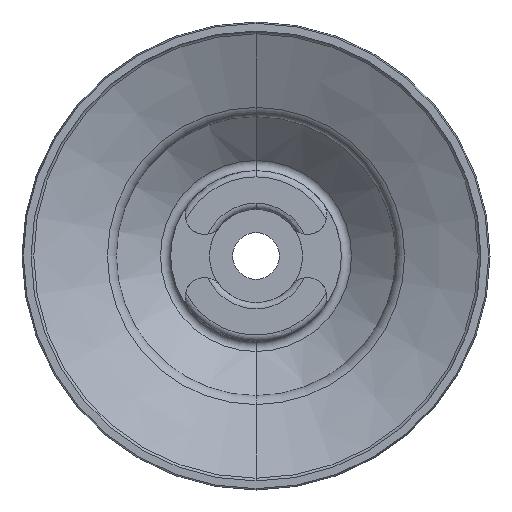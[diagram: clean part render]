
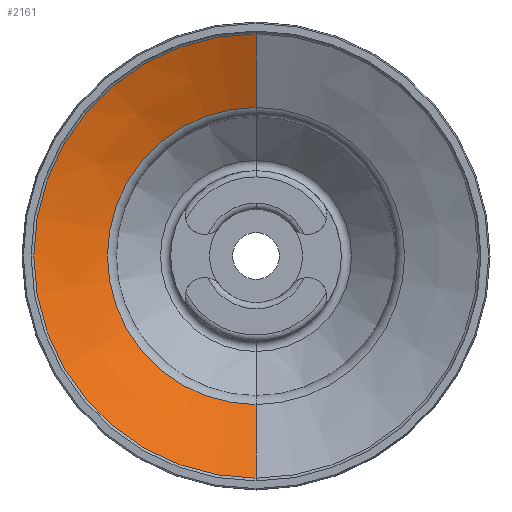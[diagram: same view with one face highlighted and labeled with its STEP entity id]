
A CAD part, front view. The second image highlights one B-rep face of the part: STEP entity #2161.
In plain terms, the highlighted conical face has half-angle 65 degrees and reference radius 9.577 mm.
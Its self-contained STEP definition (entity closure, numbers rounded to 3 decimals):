
#2 = CARTESIAN_POINT ( 'NONE',  ( 0., 2.594, -9.577 ) ) ;
#50 = EDGE_LOOP ( 'NONE', ( #2006, #1787, #122, #1755 ) ) ;
#66 = VECTOR ( 'NONE', #896, 1000. ) ;
#122 = ORIENTED_EDGE ( 'NONE', *, *, #1039, .F. ) ;
#182 = CARTESIAN_POINT ( 'NONE',  ( 0., 0.379, 14.327 ) ) ;
#185 = LINE ( 'NONE', #1738, #2819 ) ;
#406 = LINE ( 'NONE', #1272, #66 ) ;
#470 = VERTEX_POINT ( 'NONE', #2 ) ;
#487 = DIRECTION ( 'NONE',  ( 0., 1., 0. ) ) ;
#494 = VERTEX_POINT ( 'NONE', #182 ) ;
#733 = CIRCLE ( 'NONE', #2342, 14.327 ) ;
#777 = CARTESIAN_POINT ( 'NONE',  ( 0., 2.594, 0. ) ) ;
#848 = DIRECTION ( 'NONE',  ( 0., -0.423, -0.906 ) ) ;
#896 = DIRECTION ( 'NONE',  ( 0., -0.423, 0.906 ) ) ;
#906 = EDGE_CURVE ( 'NONE', #470, #968, #2098, .T. ) ;
#968 = VERTEX_POINT ( 'NONE', #2230 ) ;
#1039 = EDGE_CURVE ( 'NONE', #2636, #494, #733, .T. ) ;
#1272 = CARTESIAN_POINT ( 'NONE',  ( 0., 2.594, 9.577 ) ) ;
#1275 = AXIS2_PLACEMENT_3D ( 'NONE', #777, #2738, #1629 ) ;
#1337 = CARTESIAN_POINT ( 'NONE',  ( 0., 2.594, 0. ) ) ;
#1578 = CARTESIAN_POINT ( 'NONE',  ( 0., 0.379, 0. ) ) ;
#1607 = CONICAL_SURFACE ( 'NONE', #1275, 9.577, 1.134 ) ;
#1629 = DIRECTION ( 'NONE',  ( 0., 0., -1. ) ) ;
#1738 = CARTESIAN_POINT ( 'NONE',  ( 0., 2.594, -9.577 ) ) ;
#1755 = ORIENTED_EDGE ( 'NONE', *, *, #2246, .F. ) ;
#1787 = ORIENTED_EDGE ( 'NONE', *, *, #2350, .T. ) ;
#1845 = FACE_OUTER_BOUND ( 'NONE', #50, .T. ) ;
#2006 = ORIENTED_EDGE ( 'NONE', *, *, #906, .T. ) ;
#2098 = CIRCLE ( 'NONE', #2829, 9.577 ) ;
#2153 = CARTESIAN_POINT ( 'NONE',  ( 0., 0.379, -14.327 ) ) ;
#2161 = ADVANCED_FACE ( 'NONE', ( #1845 ), #1607, .F. ) ;
#2230 = CARTESIAN_POINT ( 'NONE',  ( 0., 2.594, 9.577 ) ) ;
#2246 = EDGE_CURVE ( 'NONE', #470, #2636, #185, .T. ) ;
#2342 = AXIS2_PLACEMENT_3D ( 'NONE', #1578, #487, #2701 ) ;
#2350 = EDGE_CURVE ( 'NONE', #968, #494, #406, .T. ) ;
#2414 = DIRECTION ( 'NONE',  ( 0., 0., 1. ) ) ;
#2451 = DIRECTION ( 'NONE',  ( 0., 1., 0. ) ) ;
#2636 = VERTEX_POINT ( 'NONE', #2153 ) ;
#2701 = DIRECTION ( 'NONE',  ( 0., 0., 1. ) ) ;
#2738 = DIRECTION ( 'NONE',  ( 0., -1., 0. ) ) ;
#2819 = VECTOR ( 'NONE', #848, 1000. ) ;
#2829 = AXIS2_PLACEMENT_3D ( 'NONE', #1337, #2451, #2414 ) ;
